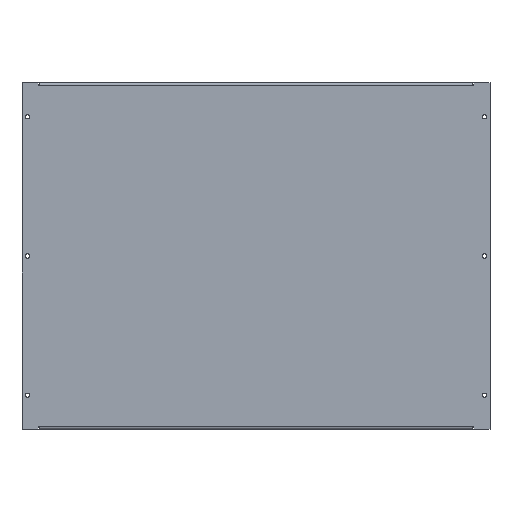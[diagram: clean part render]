
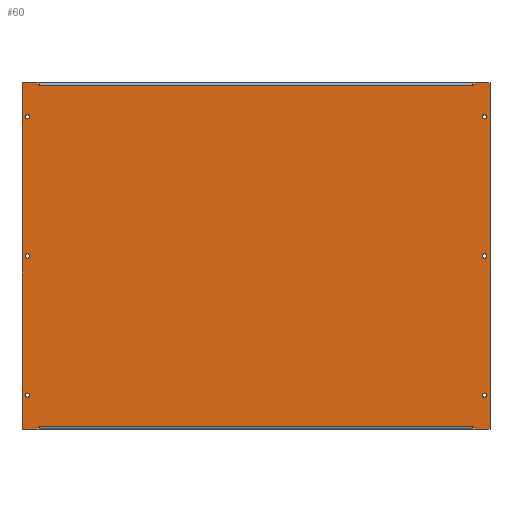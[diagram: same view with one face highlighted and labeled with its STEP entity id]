
A CAD part, top view. The second image highlights one B-rep face of the part: STEP entity #60.
In plain terms, the highlighted planar face has unit normal (0, 0, 1).
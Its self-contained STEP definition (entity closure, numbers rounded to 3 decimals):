
#60=ADVANCED_FACE('',(#166,#168,#170,#172,#174,#176,#178),#180,.F.);
#166=FACE_BOUND('',#167,.T.);
#167=EDGE_LOOP('',(#443,#444,#445,#446,#447,#448,#449,#450,#451,#452,#453,#454,#455,
#456,#457,#458));
#168=FACE_BOUND('',#169,.T.);
#169=EDGE_LOOP('',(#459));
#170=FACE_BOUND('',#171,.T.);
#171=EDGE_LOOP('',(#460));
#172=FACE_BOUND('',#173,.T.);
#173=EDGE_LOOP('',(#461));
#174=FACE_BOUND('',#175,.T.);
#175=EDGE_LOOP('',(#462));
#176=FACE_BOUND('',#177,.T.);
#177=EDGE_LOOP('',(#463));
#178=FACE_BOUND('',#179,.T.);
#179=EDGE_LOOP('',(#464));
#180=PLANE('',#181);
#181=AXIS2_PLACEMENT_3D('',#182,#183,#184);
#182=CARTESIAN_POINT('',(0.,0.,0.));
#183=DIRECTION('',(0.,0.,-1.));
#184=DIRECTION('',(-1.,0.,0.));
#443=ORIENTED_EDGE('',*,*,#621,.F.);
#444=ORIENTED_EDGE('',*,*,#622,.T.);
#445=ORIENTED_EDGE('',*,*,#623,.F.);
#446=ORIENTED_EDGE('',*,*,#624,.F.);
#447=ORIENTED_EDGE('',*,*,#625,.T.);
#448=ORIENTED_EDGE('',*,*,#626,.T.);
#449=ORIENTED_EDGE('',*,*,#627,.T.);
#450=ORIENTED_EDGE('',*,*,#628,.F.);
#451=ORIENTED_EDGE('',*,*,#629,.F.);
#452=ORIENTED_EDGE('',*,*,#630,.T.);
#453=ORIENTED_EDGE('',*,*,#631,.F.);
#454=ORIENTED_EDGE('',*,*,#632,.F.);
#455=ORIENTED_EDGE('',*,*,#633,.T.);
#456=ORIENTED_EDGE('',*,*,#634,.T.);
#457=ORIENTED_EDGE('',*,*,#635,.T.);
#458=ORIENTED_EDGE('',*,*,#636,.F.);
#459=ORIENTED_EDGE('',*,*,#593,.T.);
#460=ORIENTED_EDGE('',*,*,#595,.T.);
#461=ORIENTED_EDGE('',*,*,#597,.T.);
#462=ORIENTED_EDGE('',*,*,#599,.F.);
#463=ORIENTED_EDGE('',*,*,#601,.F.);
#464=ORIENTED_EDGE('',*,*,#603,.F.);
#593=EDGE_CURVE('',#685,#685,#686,.T.);
#595=EDGE_CURVE('',#689,#689,#690,.T.);
#597=EDGE_CURVE('',#693,#693,#694,.T.);
#599=EDGE_CURVE('',#697,#697,#698,.T.);
#601=EDGE_CURVE('',#701,#701,#702,.T.);
#603=EDGE_CURVE('',#705,#705,#706,.T.);
#621=EDGE_CURVE('',#741,#742,#743,.T.);
#622=EDGE_CURVE('',#741,#744,#745,.T.);
#623=EDGE_CURVE('',#746,#744,#747,.T.);
#624=EDGE_CURVE('',#748,#746,#749,.T.);
#625=EDGE_CURVE('',#748,#750,#751,.T.);
#626=EDGE_CURVE('',#750,#752,#753,.T.);
#627=EDGE_CURVE('',#752,#754,#755,.T.);
#628=EDGE_CURVE('',#756,#754,#757,.T.);
#629=EDGE_CURVE('',#758,#756,#759,.T.);
#630=EDGE_CURVE('',#758,#760,#761,.T.);
#631=EDGE_CURVE('',#762,#760,#763,.T.);
#632=EDGE_CURVE('',#764,#762,#765,.T.);
#633=EDGE_CURVE('',#764,#766,#767,.T.);
#634=EDGE_CURVE('',#766,#768,#769,.T.);
#635=EDGE_CURVE('',#768,#770,#771,.T.);
#636=EDGE_CURVE('',#742,#770,#772,.T.);
#685=VERTEX_POINT('',#837);
#686=CIRCLE('',#838,3.15);
#689=VERTEX_POINT('',#847);
#690=CIRCLE('',#848,3.15);
#693=VERTEX_POINT('',#857);
#694=CIRCLE('',#858,3.15);
#697=VERTEX_POINT('',#867);
#698=CIRCLE('',#868,3.15);
#701=VERTEX_POINT('',#877);
#702=CIRCLE('',#878,3.15);
#705=VERTEX_POINT('',#887);
#706=CIRCLE('',#888,3.15);
#741=VERTEX_POINT('',#961);
#742=VERTEX_POINT('',#962);
#743=LINE('',#963,#964);
#744=VERTEX_POINT('',#966);
#745=LINE('',#967,#968);
#746=VERTEX_POINT('',#970);
#747=LINE('',#971,#972);
#748=VERTEX_POINT('',#974);
#749=LINE('',#975,#976);
#750=VERTEX_POINT('',#978);
#751=LINE('',#979,#980);
#752=VERTEX_POINT('',#982);
#753=LINE('',#983,#984);
#754=VERTEX_POINT('',#986);
#755=LINE('',#987,#988);
#756=VERTEX_POINT('',#990);
#757=LINE('',#991,#992);
#758=VERTEX_POINT('',#994);
#759=LINE('',#995,#996);
#760=VERTEX_POINT('',#998);
#761=LINE('',#999,#1000);
#762=VERTEX_POINT('',#1002);
#763=LINE('',#1003,#1004);
#764=VERTEX_POINT('',#1006);
#765=LINE('',#1007,#1008);
#766=VERTEX_POINT('',#1010);
#767=LINE('',#1011,#1012);
#768=VERTEX_POINT('',#1014);
#769=LINE('',#1015,#1016);
#770=VERTEX_POINT('',#1018);
#771=LINE('',#1019,#1020);
#772=LINE('',#1022,#1023);
#837=CARTESIAN_POINT('',(331.15,200.,0.));
#838=AXIS2_PLACEMENT_3D('',#839,#840,#841);
#839=CARTESIAN_POINT('',(328.,200.,0.));
#840=DIRECTION('',(0.,0.,-1.));
#841=DIRECTION('',(1.,0.,0.));
#847=CARTESIAN_POINT('',(331.15,-200.,0.));
#848=AXIS2_PLACEMENT_3D('',#849,#850,#851);
#849=CARTESIAN_POINT('',(328.,-200.,0.));
#850=DIRECTION('',(0.,0.,-1.));
#851=DIRECTION('',(1.,0.,0.));
#857=CARTESIAN_POINT('',(331.15,0.,0.));
#858=AXIS2_PLACEMENT_3D('',#859,#860,#861);
#859=CARTESIAN_POINT('',(328.,0.,0.));
#860=DIRECTION('',(0.,0.,-1.));
#861=DIRECTION('',(1.,0.,0.));
#867=CARTESIAN_POINT('',(-324.85,200.,0.));
#868=AXIS2_PLACEMENT_3D('',#869,#870,#871);
#869=CARTESIAN_POINT('',(-328.,200.,0.));
#870=DIRECTION('',(0.,0.,1.));
#871=DIRECTION('',(-1.,0.,0.));
#877=CARTESIAN_POINT('',(-324.85,-200.,0.));
#878=AXIS2_PLACEMENT_3D('',#879,#880,#881);
#879=CARTESIAN_POINT('',(-328.,-200.,0.));
#880=DIRECTION('',(0.,0.,1.));
#881=DIRECTION('',(-1.,0.,0.));
#887=CARTESIAN_POINT('',(-324.85,0.,0.));
#888=AXIS2_PLACEMENT_3D('',#889,#890,#891);
#889=CARTESIAN_POINT('',(-328.,0.,0.));
#890=DIRECTION('',(0.,0.,1.));
#891=DIRECTION('',(-1.,0.,0.));
#961=CARTESIAN_POINT('',(311.,245.3,0.));
#962=CARTESIAN_POINT('',(313.,245.3,0.));
#963=CARTESIAN_POINT('',(311.,245.3,0.));
#964=VECTOR('',#965,1.);
#965=DIRECTION('',(1.,0.,0.));
#966=CARTESIAN_POINT('',(-311.,245.3,0.));
#967=CARTESIAN_POINT('',(311.,245.3,0.));
#968=VECTOR('',#969,1.);
#969=DIRECTION('',(-1.,0.,0.));
#970=CARTESIAN_POINT('',(-313.,245.3,0.));
#971=CARTESIAN_POINT('',(-313.,245.3,0.));
#972=VECTOR('',#973,1.);
#973=DIRECTION('',(1.,0.,0.));
#974=CARTESIAN_POINT('',(-313.,248.5,0.));
#975=CARTESIAN_POINT('',(-313.,248.5,0.));
#976=VECTOR('',#977,1.);
#977=DIRECTION('',(0.,-1.,0.));
#978=CARTESIAN_POINT('',(-336.,248.5,0.));
#979=CARTESIAN_POINT('',(-313.,248.5,0.));
#980=VECTOR('',#981,1.);
#981=DIRECTION('',(-1.,0.,0.));
#982=CARTESIAN_POINT('',(-336.,-248.5,0.));
#983=CARTESIAN_POINT('',(-336.,248.5,0.));
#984=VECTOR('',#985,1.);
#985=DIRECTION('',(0.,-1.,0.));
#986=CARTESIAN_POINT('',(-313.,-248.5,0.));
#987=CARTESIAN_POINT('',(-336.,-248.5,0.));
#988=VECTOR('',#989,1.);
#989=DIRECTION('',(1.,0.,0.));
#990=CARTESIAN_POINT('',(-313.,-245.3,0.));
#991=CARTESIAN_POINT('',(-313.,-245.3,0.));
#992=VECTOR('',#993,1.);
#993=DIRECTION('',(0.,-1.,0.));
#994=CARTESIAN_POINT('',(-311.,-245.3,0.));
#995=CARTESIAN_POINT('',(-311.,-245.3,0.));
#996=VECTOR('',#997,1.);
#997=DIRECTION('',(-1.,0.,0.));
#998=CARTESIAN_POINT('',(311.,-245.3,0.));
#999=CARTESIAN_POINT('',(-311.,-245.3,0.));
#1000=VECTOR('',#1001,1.);
#1001=DIRECTION('',(1.,0.,0.));
#1002=CARTESIAN_POINT('',(313.,-245.3,0.));
#1003=CARTESIAN_POINT('',(313.,-245.3,0.));
#1004=VECTOR('',#1005,1.);
#1005=DIRECTION('',(-1.,0.,0.));
#1006=CARTESIAN_POINT('',(313.,-248.5,0.));
#1007=CARTESIAN_POINT('',(313.,-248.5,0.));
#1008=VECTOR('',#1009,1.);
#1009=DIRECTION('',(0.,1.,0.));
#1010=CARTESIAN_POINT('',(336.,-248.5,0.));
#1011=CARTESIAN_POINT('',(313.,-248.5,0.));
#1012=VECTOR('',#1013,1.);
#1013=DIRECTION('',(1.,0.,0.));
#1014=CARTESIAN_POINT('',(336.,248.5,0.));
#1015=CARTESIAN_POINT('',(336.,-248.5,0.));
#1016=VECTOR('',#1017,1.);
#1017=DIRECTION('',(0.,1.,0.));
#1018=CARTESIAN_POINT('',(313.,248.5,0.));
#1019=CARTESIAN_POINT('',(336.,248.5,0.));
#1020=VECTOR('',#1021,1.);
#1021=DIRECTION('',(-1.,0.,0.));
#1022=CARTESIAN_POINT('',(313.,245.3,0.));
#1023=VECTOR('',#1024,1.);
#1024=DIRECTION('',(0.,1.,0.));
